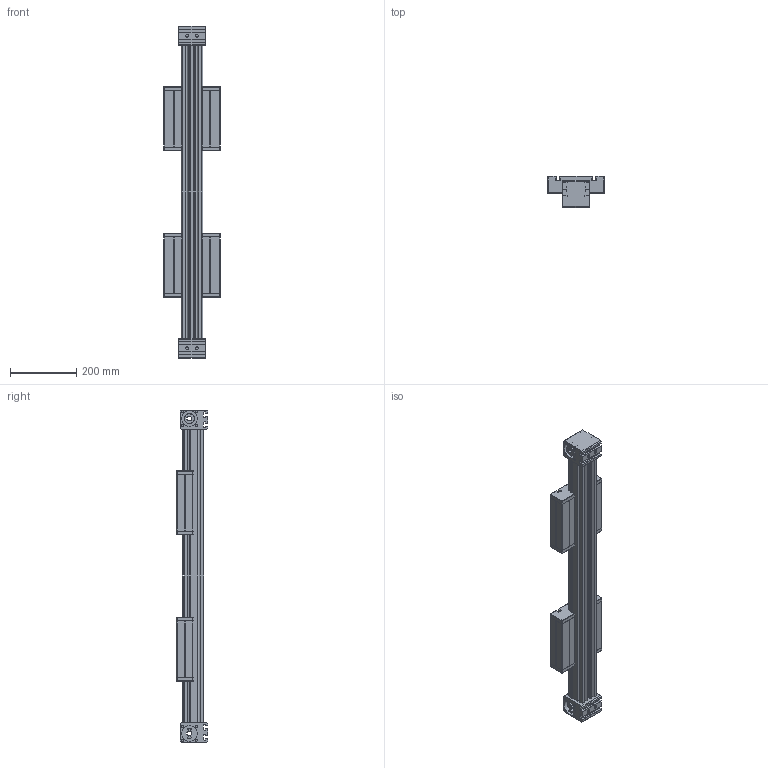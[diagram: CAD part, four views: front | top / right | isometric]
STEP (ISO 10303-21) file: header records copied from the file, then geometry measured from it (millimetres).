
FILE_DESCRIPTION (( 'STEP AP214' ), '1' );
FILE_NAME ('ELZZ60S.STEP', '2022-07-19T13:13:11', ( '' ), ( '' ), 'SwSTEP 2.0', 'SolidWorks 2020', '' );
FILE_SCHEMA (( 'AUTOMOTIVE_DESIGN' ));
Length unit declared in the file: millimetre
Products named in the file (4): timing belt reverse unit^ELZZ60S_coupling claw pos.1; ELZZ60S; profile^ELZZ60S_2x guide rods; carriage^ELZZ60S_carriage version 0
Assembly tree (5 placements, depth 2):
  ELZZ60S
    profile^ELZZ60S_2x guide rods
    carriage^ELZZ60S_carriage version 0  x2
    timing belt reverse unit^ELZZ60S_coupling claw pos.1  x2
Bounding box: 170 x 94 x 1000 mm (x, y, z)
Volume: 5996909.6 mm3; surface area: 795526 mm2
Topology: 13 solids, 13 shells, 666 faces, 1806 edges, 1192 vertices
Faces by surface type: plane 394, cylinder 252, torus 16, cone 4
Entity records: 13502 total; most frequent: CARTESIAN_POINT 2047, DIRECTION 1994, ORIENTED_EDGE 1968, EDGE_CURVE 984, VECTOR 704, LINE 704, VERTEX_POINT 650, AXIS2_PLACEMENT_3D 645
